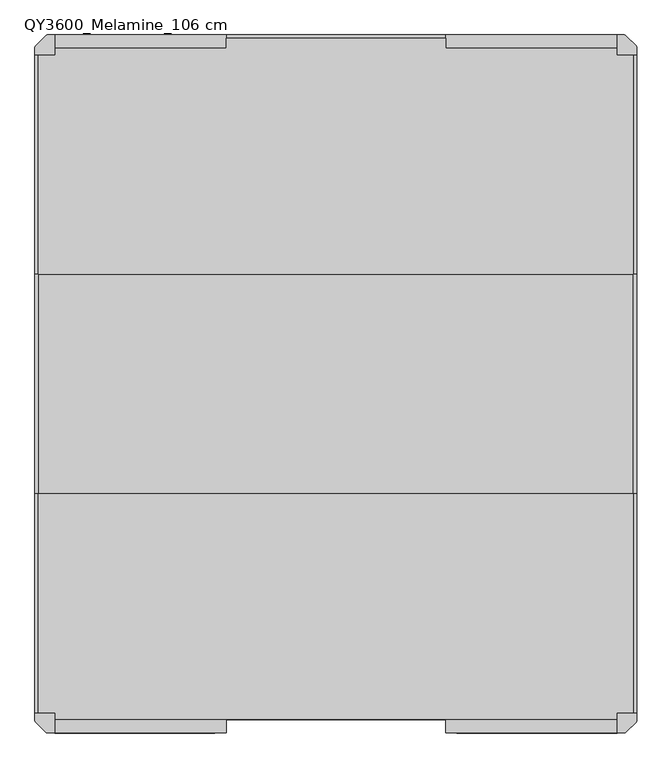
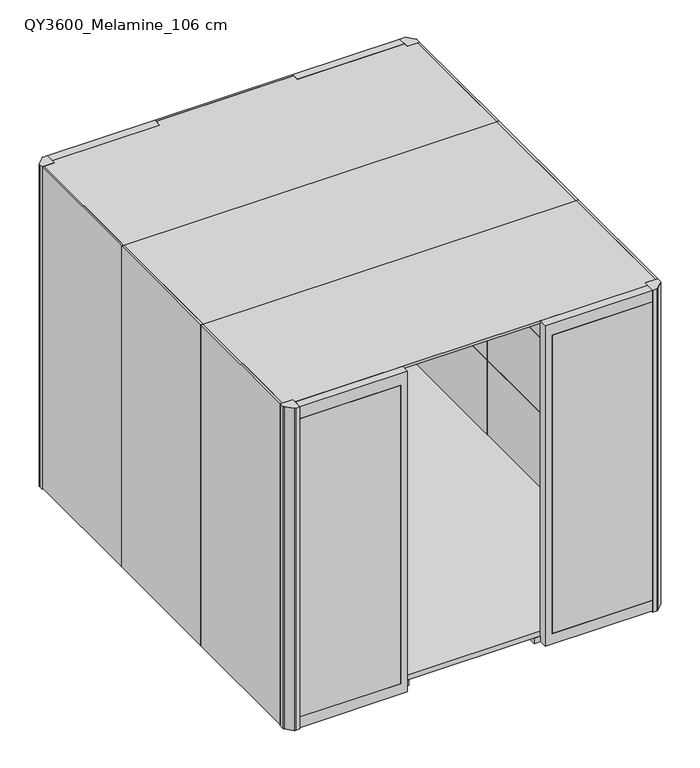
"""IFC4 building model written with IfcOpenShell, lengths in millimetres: furniture geometry, Qyos_600 : QY3600_Melamine_106 cm."""

from ifc_helpers import new_model, si_unit, point, frame, frame_2d, origin, origin_with_axes, place, context, project, spatial, polyline, circle_curve, trimmed, segment, composite_curve, outline, extrude, source, transform, mapped, element, save
from ifc_brep_helpers import plane_surface, cylinder_surface, advanced_brep


def qy3600_melamine_106_cm_6145cd7a(model_context):
    return source(origin(), model_context, "Body", "SolidModel", [
        advanced_brep(
        [(1048.8585356, 1272.0, 0.0), (1095.1414644, 1272.0, 0.0), (1072.0, 1272.0, 0.0), (1048.8585356, 1272.0, 7.0), (1095.1414644, 1272.0, 7.0), (1062.3615446, 1272.0, 7.0), (1081.6384554, 1272.0, 7.0), (1062.3615446, 1272.0, 17.0), (1081.6384554, 1272.0, 17.0), (1072.0, 1272.0, 17.0)],
        [
            (0, 1, circle_curve(frame((1072.0, 1272.0, 0.0), z_axis=(0.0, 0.0, -1.0), x_axis=(1.0, 0.0, 0.0)), 23.1414644)),
            (1, 2),
            (2, 0),
            (1, 0, circle_curve(frame((1072.0, 1272.0, 0.0), z_axis=(0.0, 0.0, -1.0), x_axis=(1.0, 0.0, 0.0)), 23.1414644)),
            (3, 4, circle_curve(frame((1072.0, 1272.0, 7.0), z_axis=(0.0, 0.0, -1.0), x_axis=(1.0, 0.0, 0.0)), 23.1414644)),
            (4, 1),
            (0, 3),
            (4, 3, circle_curve(frame((1072.0, 1272.0, 7.0), z_axis=(0.0, 0.0, -1.0), x_axis=(1.0, 0.0, 0.0)), 23.1414644)),
            (5, 6, circle_curve(frame((1072.0, 1272.0, 7.0), z_axis=(0.0, 0.0, -1.0), x_axis=(1.0, 0.0, 0.0)), 9.6384554)),
            (6, 4),
            (3, 5),
            (6, 5, circle_curve(frame((1072.0, 1272.0, 7.0), z_axis=(0.0, 0.0, -1.0), x_axis=(1.0, 0.0, 0.0)), 9.6384554)),
            (7, 8, circle_curve(frame((1072.0, 1272.0, 17.0), z_axis=(0.0, 0.0, -1.0), x_axis=(1.0, 0.0, 0.0)), 9.6384554)),
            (8, 6),
            (5, 7),
            (8, 7, circle_curve(frame((1072.0, 1272.0, 17.0), z_axis=(0.0, 0.0, -1.0), x_axis=(1.0, 0.0, 0.0)), 9.6384554)),
            (9, 8),
            (7, 9),
        ],
        [
            plane_surface(frame((1072.0, 1272.0, 0.0), z_axis=(0.0, 0.0, -1.0), x_axis=(1.0, 0.0, 0.0))),
            cylinder_surface(frame((1072.0, 1272.0, 1997.4144888), z_axis=(0.0, 0.0, 1.0), x_axis=(1.0, 0.0, 0.0)), 23.1414644),
            plane_surface(frame((1072.0, 1272.0, 7.0), z_axis=(0.0, 0.0, 1.0), x_axis=(1.0, 0.0, 0.0))),
            cylinder_surface(frame((1072.0, 1272.0, 1997.4144888), z_axis=(0.0, 0.0, 1.0), x_axis=(1.0, 0.0, 0.0)), 9.6384554),
            plane_surface(frame((1072.0, 1272.0, 17.0), z_axis=(0.0, 0.0, 1.0), x_axis=(1.0, 0.0, 0.0))),
        ],
        [
            (0, [[1, 2, 3]]),
            (0, [[4, -3, -2]]),
            (1, [[5, 6, -1, 7]]),
            (1, [[8, -7, -4, -6]]),
            (2, [[9, 10, -5, 11]]),
            (2, [[12, -11, -8, -10]]),
            (3, [[13, 14, -9, 15]]),
            (3, [[16, -15, -12, -14]]),
            (4, [[17, -13, 18]]),
            (4, [[-18, -16, -17]]),
        ],
    ),
        extrude(outline(composite_curve([segment(trimmed(circle_curve(frame_2d((1072.0, 1272.0)), 23.1414644), [point((1048.8585356, 1272.0))], [point((1095.1414644, 1272.0))], False, "CARTESIAN"), True, "CONTINUOUS"), segment(trimmed(circle_curve(frame_2d((1072.0, 1272.0)), 23.1414644), [point((1095.1414644, 1272.0))], [point((1048.8585356, 1272.0))], False, "CARTESIAN"), True, "CONTINUOUS")], self_intersect=False)), origin_with_axes(), (0.0, 0.0, 1.0), 7.0),
        extrude(outline(composite_curve([segment(polyline([(-1140.0, 1335.0), (-1220.0, 1335.0), (-1220.0, 1362.5536246)]), True, "CONTINUOUS"), segment(trimmed(circle_curve(frame_2d((-1208.0024364, 1362.3118252)), 12.0), [point((-1220.0, 1362.5536246))], [point((-1216.7960176, 1370.4771745))], False, "CARTESIAN"), True, "CONTINUOUS"), segment(trimmed(circle_curve(frame_2d((-638.4303831, 833.431197)), 789.2560985), [point((-1216.7960176, 1370.4771745))], [point((-1175.4763607, 1411.7968315))], False, "CARTESIAN"), True, "CONTINUOUS"), segment(trimmed(circle_curve(frame_2d((-1167.3110114, 1403.0032502)), 12.0), [point((-1175.4763607, 1411.7968315))], [point((-1167.5902872, 1415.0))], False, "CARTESIAN"), True, "CONTINUOUS"), segment(polyline([(-1167.5902872, 1415.0), (-1140.0, 1415.0), (-1140.0, 1335.0)]), True, "CONTINUOUS")], self_intersect=False)), origin_with_axes(), (0.0, 0.0, 1.0), 2202.1),
        extrude(outline(composite_curve([segment(polyline([(1140.0, 1335.0), (1140.0, 1415.0), (1167.5536246, 1415.0)]), True, "CONTINUOUS"), segment(trimmed(circle_curve(frame_2d((1167.3118252, 1403.0024364)), 12.0), [point((1167.5536246, 1415.0))], [point((1175.4771745, 1411.7960176))], False, "CARTESIAN"), True, "CONTINUOUS"), segment(trimmed(circle_curve(frame_2d((638.431197, 833.4303831)), 789.2560985), [point((1175.4771745, 1411.7960176))], [point((1216.7968315, 1370.4763607))], False, "CARTESIAN"), True, "CONTINUOUS"), segment(trimmed(circle_curve(frame_2d((1208.0032502, 1362.3110114)), 12.0), [point((1216.7968315, 1370.4763607))], [point((1220.0, 1362.5902872))], False, "CARTESIAN"), True, "CONTINUOUS"), segment(polyline([(1220.0, 1362.5902872), (1220.0, 1335.0), (1140.0, 1335.0)]), True, "CONTINUOUS")], self_intersect=False)), origin_with_axes(), (0.0, 0.0, 1.0), 2202.1),
        extrude(outline(composite_curve([segment(polyline([(1140.0, -1335.0), (1220.0, -1335.0), (1220.0, -1362.5536246)]), True, "CONTINUOUS"), segment(trimmed(circle_curve(frame_2d((1208.0024364, -1362.3118252)), 12.0), [point((1220.0, -1362.5536246))], [point((1216.7960176, -1370.4771745))], False, "CARTESIAN"), True, "CONTINUOUS"), segment(trimmed(circle_curve(frame_2d((638.4303831, -833.431197)), 789.2560985), [point((1216.7960176, -1370.4771745))], [point((1175.4763607, -1411.7968315))], False, "CARTESIAN"), True, "CONTINUOUS"), segment(trimmed(circle_curve(frame_2d((1167.3110114, -1403.0032502)), 12.0), [point((1175.4763607, -1411.7968315))], [point((1167.5902872, -1415.0))], False, "CARTESIAN"), True, "CONTINUOUS"), segment(polyline([(1167.5902872, -1415.0), (1140.0, -1415.0), (1140.0, -1335.0)]), True, "CONTINUOUS")], self_intersect=False)), origin_with_axes(), (0.0, 0.0, 1.0), 2202.1),
        extrude(outline(composite_curve([segment(polyline([(-1140.0, -1335.0), (-1140.0, -1415.0), (-1167.5536246, -1415.0)]), True, "CONTINUOUS"), segment(trimmed(circle_curve(frame_2d((-1167.3118252, -1403.0024364)), 12.0), [point((-1167.5536246, -1415.0))], [point((-1175.4771745, -1411.7960176))], False, "CARTESIAN"), True, "CONTINUOUS"), segment(trimmed(circle_curve(frame_2d((-638.431197, -833.4303831)), 789.2560985), [point((-1175.4771745, -1411.7960176))], [point((-1216.7968315, -1370.4763607))], False, "CARTESIAN"), True, "CONTINUOUS"), segment(trimmed(circle_curve(frame_2d((-1208.0032502, -1362.3110114)), 12.0), [point((-1216.7968315, -1370.4763607))], [point((-1220.0, -1362.5902872))], False, "CARTESIAN"), True, "CONTINUOUS"), segment(polyline([(-1220.0, -1362.5902872), (-1220.0, -1335.0), (-1140.0, -1335.0)]), True, "CONTINUOUS")], self_intersect=False)), origin_with_axes(), (0.0, 0.0, 1.0), 2202.1),
        extrude(outline(polyline([(-445.0, 1360.0), (-445.0, 1401.0), (445.0, 1401.0), (445.0, 1360.0), (1140.0, 1360.0), (1140.0, 1335.0), (1206.0, 1335.0), (1206.0, 445.0), (-1206.0, 445.0), (-1206.0, 1335.0), (-1140.0, 1335.0), (-1140.0, 1360.0), (-445.0, 1360.0)])), frame((0.0, 0.0, 2186.1), z_axis=(0.0, 0.0, 1.0), x_axis=(1.0, 0.0, 0.0)), (0.0, 0.0, 1.0), 16.0),
        extrude(outline(polyline([(1206.0, -445.0), (1206.0, -1335.0), (1140.0, -1335.0), (1140.0, -1359.9956819), (-1140.0, -1359.9956819), (-1140.0, -1335.0), (-1206.0, -1335.0), (-1206.0, -445.0), (1206.0, -445.0)])), frame((0.0, 0.0, 2186.1), z_axis=(0.0, 0.0, 1.0), x_axis=(1.0, 0.0, 0.0)), (0.0, 0.0, 1.0), 16.0),
        extrude(outline(polyline([(1165.0, -1335.0), (1146.0, -1335.0), (1146.0, -445.0), (1165.0, -445.0), (1165.0, -1335.0)])), frame((0.0, 0.0, 77.0), z_axis=(0.0, 0.0, 1.0), x_axis=(1.0, 0.0, 0.0)), (0.0, 0.0, 1.0), 516.9823403),
        extrude(outline(polyline([(-1165.0, -1335.0), (-1165.0, -445.0), (-1146.0, -445.0), (-1146.0, -1335.0), (-1165.0, -1335.0)])), frame((0.0, 0.0, 77.0), z_axis=(0.0, 0.0, 1.0), x_axis=(1.0, 0.0, 0.0)), (0.0, 0.0, 1.0), 516.9823403),
        extrude(outline(polyline([(1165.0, -1335.0), (1146.0, -1335.0), (1146.0, -445.0), (1165.0, -445.0), (1165.0, -1335.0)])), frame((0.0, 0.0, 593.9823403), z_axis=(0.0, 0.0, 1.0), x_axis=(1.0, 0.0, 0.0)), (0.0, 0.0, 1.0), 512.0292884),
        extrude(outline(polyline([(-1165.0, -1335.0), (-1165.0, -445.0), (-1146.0, -445.0), (-1146.0, -1335.0), (-1165.0, -1335.0)])), frame((0.0, 0.0, 593.9823403), z_axis=(0.0, 0.0, 1.0), x_axis=(1.0, 0.0, 0.0)), (0.0, 0.0, 1.0), 512.0292884),
        extrude(outline(polyline([(1165.0, -1335.0), (1146.0, -1335.0), (1146.0, -445.0), (1165.0, -445.0), (1165.0, -1335.0)])), frame((0.0, 0.0, 1106.0116287), z_axis=(0.0, 0.0, 1.0), x_axis=(1.0, 0.0, 0.0)), (0.0, 0.0, 1.0), 511.9707116),
        extrude(outline(polyline([(-1165.0, -1335.0), (-1165.0, -445.0), (-1146.0, -445.0), (-1146.0, -1335.0), (-1165.0, -1335.0)])), frame((0.0, 0.0, 1106.0116287), z_axis=(0.0, 0.0, 1.0), x_axis=(1.0, 0.0, 0.0)), (0.0, 0.0, 1.0), 511.9707116),
        extrude(outline(polyline([(1165.0, -1335.0), (1146.0, -1335.0), (1146.0, -445.0), (1165.0, -445.0), (1165.0, -1335.0)])), frame((0.0, 0.0, 1617.9823403), z_axis=(0.0, 0.0, 1.0), x_axis=(1.0, 0.0, 0.0)), (0.0, 0.0, 1.0), 504.1176597),
        extrude(outline(polyline([(-1165.0, -1335.0), (-1165.0, -445.0), (-1146.0, -445.0), (-1146.0, -1335.0), (-1165.0, -1335.0)])), frame((0.0, 0.0, 1617.9823403), z_axis=(0.0, 0.0, 1.0), x_axis=(1.0, 0.0, 0.0)), (0.0, 0.0, 1.0), 504.1176597),
        extrude(outline(polyline([(1165.0, -445.0), (1146.0, -445.0), (1146.0, 445.0), (1165.0, 445.0), (1165.0, -445.0)])), frame((0.0, 0.0, 1617.9823403), z_axis=(0.0, 0.0, 1.0), x_axis=(1.0, 0.0, 0.0)), (0.0, 0.0, 1.0), 504.1176597),
        extrude(outline(polyline([(-1165.0, -445.0), (-1165.0, 445.0), (-1146.0, 445.0), (-1146.0, -445.0), (-1165.0, -445.0)])), frame((0.0, 0.0, 1617.9823403), z_axis=(0.0, 0.0, 1.0), x_axis=(1.0, 0.0, 0.0)), (0.0, 0.0, 1.0), 504.1176597),
        extrude(outline(polyline([(1165.0, -445.0), (1146.0, -445.0), (1146.0, 445.0), (1165.0, 445.0), (1165.0, -445.0)])), frame((0.0, 0.0, 1106.0116287), z_axis=(0.0, 0.0, 1.0), x_axis=(1.0, 0.0, 0.0)), (0.0, 0.0, 1.0), 511.9707116),
        extrude(outline(polyline([(-1165.0, -445.0), (-1165.0, 445.0), (-1146.0, 445.0), (-1146.0, -445.0), (-1165.0, -445.0)])), frame((0.0, 0.0, 1106.0116287), z_axis=(0.0, 0.0, 1.0), x_axis=(1.0, 0.0, 0.0)), (0.0, 0.0, 1.0), 511.9707116),
        extrude(outline(polyline([(1165.0, -445.0), (1146.0, -445.0), (1146.0, 445.0), (1165.0, 445.0), (1165.0, -445.0)])), frame((0.0, 0.0, 593.9823403), z_axis=(0.0, 0.0, 1.0), x_axis=(1.0, 0.0, 0.0)), (0.0, 0.0, 1.0), 512.0292884),
        extrude(outline(polyline([(-1165.0, -445.0), (-1165.0, 445.0), (-1146.0, 445.0), (-1146.0, -445.0), (-1165.0, -445.0)])), frame((0.0, 0.0, 593.9823403), z_axis=(0.0, 0.0, 1.0), x_axis=(1.0, 0.0, 0.0)), (0.0, 0.0, 1.0), 512.0292884),
        extrude(outline(polyline([(1165.0, 445.0), (1146.0, 445.0), (1146.0, 1335.0), (1165.0, 1335.0), (1165.0, 445.0)])), frame((0.0, 0.0, 77.0), z_axis=(0.0, 0.0, 1.0), x_axis=(1.0, 0.0, 0.0)), (0.0, 0.0, 1.0), 516.9823403),
        extrude(outline(polyline([(-1165.0, 445.0), (-1165.0, 1335.0), (-1146.0, 1335.0), (-1146.0, 445.0), (-1165.0, 445.0)])), frame((0.0, 0.0, 77.0), z_axis=(0.0, 0.0, 1.0), x_axis=(1.0, 0.0, 0.0)), (0.0, 0.0, 1.0), 516.9823403),
        extrude(outline(polyline([(-445.0, 1360.0), (-445.0, 1379.0), (445.0557256, 1379.0), (445.0557256, 1360.0), (-445.0, 1360.0)])), frame((0.0, 0.0, 77.0), z_axis=(0.0, 0.0, 1.0), x_axis=(1.0, 0.0, 0.0)), (0.0, 0.0, 1.0), 516.9823403),
        extrude(outline(polyline([(-1220.0, -1335.0), (-1220.0, -445.0), (-1206.0, -445.0), (-1206.0, -1335.0), (-1220.0, -1335.0)])), frame((0.0, 0.0, 10.0), z_axis=(0.0, 0.0, 1.0), x_axis=(1.0, 0.0, 0.0)), (0.0, 0.0, 1.0), 2192.1),
        extrude(outline(polyline([(1220.0, -1335.0), (1206.0, -1335.0), (1206.0, -445.0), (1220.0, -445.0), (1220.0, -1335.0)])), frame((0.0, 0.0, 10.0), z_axis=(0.0, 0.0, 1.0), x_axis=(1.0, 0.0, 0.0)), (0.0, 0.0, 1.0), 2192.1),
        extrude(outline(polyline([(-1220.0, -445.0), (-1220.0, 445.0), (-1206.0, 445.0), (-1206.0, -445.0), (-1220.0, -445.0)])), frame((0.0, 0.0, 10.0), z_axis=(0.0, 0.0, 1.0), x_axis=(1.0, 0.0, 0.0)), (0.0, 0.0, 1.0), 2192.1),
        extrude(outline(polyline([(1220.0, -445.0), (1206.0, -445.0), (1206.0, 445.0), (1220.0, 445.0), (1220.0, -445.0)])), frame((0.0, 0.0, 10.0), z_axis=(0.0, 0.0, 1.0), x_axis=(1.0, 0.0, 0.0)), (0.0, 0.0, 1.0), 2192.1),
        extrude(outline(polyline([(-1140.0, 1415.0), (-490.0089845, 1415.0), (-490.0089845, 1410.0), (-1140.0, 1410.0), (-1140.0, 1415.0)])), frame((0.0, 0.0, 82.0), z_axis=(0.0, 0.0, 1.0), x_axis=(1.0, 0.0, 0.0)), (0.0, 0.0, 1.0), 2040.1),
        extrude(outline(polyline([(490.0089845, 1415.0), (1140.0, 1415.0), (1140.0, 1410.0), (490.0089845, 1410.0), (490.0089845, 1415.0)])), frame((0.0, 0.0, 82.0), z_axis=(0.0, 0.0, 1.0), x_axis=(1.0, 0.0, 0.0)), (0.0, 0.0, 1.0), 2040.1),
        extrude(outline(polyline([(2122.1, -490.0089845), (82.0, -490.0089845), (82.0, -1140.0), (10.0, -1140.0), (10.0, -445.0), (2202.1, -445.0), (2202.1, -1140.0), (2122.1, -1140.0), (2122.1, -490.0089845)])), frame((0.0, 1360.0, 0.0), z_axis=(0.0, 1.0, 0.0), x_axis=(0.0, 0.0, 1.0)), (0.0, 0.0, 1.0), 55.0),
        extrude(outline(polyline([(2122.1, 490.0089845), (2122.1, 1140.0), (2202.1, 1140.0), (2202.1, 445.0), (10.0, 445.0), (10.0, 1140.0), (82.0, 1140.0), (82.0, 490.0089845), (2122.1, 490.0089845)])), frame((0.0, 1360.0, 0.0), z_axis=(0.0, 1.0, 0.0), x_axis=(0.0, 0.0, 1.0)), (0.0, 0.0, 1.0), 55.0),
        extrude(outline(polyline([(1206.0, 445.0), (1206.0, -445.0), (-1206.0, -445.0), (-1206.0, 445.0), (1206.0, 445.0)])), frame((0.0, 0.0, 2186.1), z_axis=(0.0, 0.0, 1.0), x_axis=(1.0, 0.0, 0.0)), (0.0, 0.0, 1.0), 16.0),
        extrude(outline(polyline([(-490.0089845, -1415.0), (-1140.0, -1415.0), (-1140.0, -1410.0), (-490.0089845, -1410.0), (-490.0089845, -1415.0)])), frame((0.0, 0.0, 82.0), z_axis=(0.0, 0.0, 1.0), x_axis=(1.0, 0.0, 0.0)), (0.0, 0.0, 1.0), 2040.1),
        extrude(outline(polyline([(1140.0, -1415.0), (490.0089845, -1415.0), (490.0089845, -1410.0), (1140.0, -1410.0), (1140.0, -1415.0)])), frame((0.0, 0.0, 82.0), z_axis=(0.0, 0.0, 1.0), x_axis=(1.0, 0.0, 0.0)), (0.0, 0.0, 1.0), 2040.1),
        extrude(outline(polyline([(-1052.0, -1359.9956819), (-1092.0, -1359.9956819), (-1092.0, 1360.0), (-1052.0, 1360.0), (-1052.0, -1359.9956819)])), frame((0.0, 0.0, 10.0), z_axis=(0.0, 0.0, 1.0), x_axis=(1.0, 0.0, 0.0)), (0.0, 0.0, 1.0), 37.0),
        extrude(outline(polyline([(-405.0, -1359.9956819), (-445.0, -1359.9956819), (-445.0, 1360.0), (-405.0, 1360.0), (-405.0, -1359.9956819)])), frame((0.0, 0.0, 10.0), z_axis=(0.0, 0.0, 1.0), x_axis=(1.0, 0.0, 0.0)), (0.0, 0.0, 1.0), 37.0),
        extrude(outline(polyline([(1092.0, -1359.9956819), (1052.0, -1359.9956819), (1052.0, 1360.0), (1092.0, 1360.0), (1092.0, -1359.9956819)])), frame((0.0, 0.0, 10.0), z_axis=(0.0, 0.0, 1.0), x_axis=(1.0, 0.0, 0.0)), (0.0, 0.0, 1.0), 37.0),
        extrude(outline(polyline([(405.0, 1360.0), (450.2080274, 1360.0), (450.2080274, -1359.9956819), (405.0, -1359.9956819), (405.0, 1360.0)])), frame((0.0, 0.0, 10.0), z_axis=(0.0, 0.0, 1.0), x_axis=(1.0, 0.0, 0.0)), (0.0, 0.0, 1.0), 37.0),
        extrude(outline(polyline([(2122.1, -490.0089845), (82.0, -490.0089845), (82.0, -1140.0), (10.0, -1140.0), (10.0, -445.0), (2202.1, -445.0), (2202.1, -1140.0), (2122.1, -1140.0), (2122.1, -490.0089845)])), frame((0.0, -1415.0, 0.0), z_axis=(0.0, 1.0, 0.0), x_axis=(0.0, 0.0, 1.0)), (0.0, 0.0, 1.0), 55.0043181),
        extrude(outline(polyline([(2122.1, 490.0089845), (2122.1, 1140.0), (2202.1, 1140.0), (2202.1, 445.0), (10.0, 445.0), (10.0, 1140.0), (82.0, 1140.0), (82.0, 490.0089845), (2122.1, 490.0089845)])), frame((0.0, -1415.0, 0.0), z_axis=(0.0, 1.0, 0.0), x_axis=(0.0, 0.0, 1.0)), (0.0, 0.0, 1.0), 55.0043181),
        extrude(outline(polyline([(-1146.0, 1335.0), (-1140.0, 1335.0), (-1140.0, 1360.0), (1140.0, 1360.0), (1140.0, 1335.0), (1146.0, 1335.0), (1146.0, -1335.0), (1140.0, -1335.0), (1140.0, -1359.9956819), (-1140.0, -1359.9956819), (-1140.0, -1335.0), (-1146.0, -1335.0), (-1146.0, 1335.0)])), frame((0.0, 0.0, 47.0), z_axis=(0.0, 0.0, 1.0), x_axis=(1.0, 0.0, 0.0)), (0.0, 0.0, 1.0), 35.0),
        extrude(outline(polyline([(1165.0, 445.0), (1146.0, 445.0), (1146.0, 1335.0024364), (1165.0, 1335.0024364), (1165.0, 445.0)])), frame((0.0, 0.0, 1617.9823403), z_axis=(0.0, 0.0, 1.0), x_axis=(1.0, 0.0, 0.0)), (0.0, 0.0, 1.0), 504.1176597),
        extrude(outline(polyline([(-1165.0, 445.0), (-1165.0, 1335.0), (-1146.0, 1335.0), (-1146.0, 445.0), (-1165.0, 445.0)])), frame((0.0, 0.0, 1617.9823403), z_axis=(0.0, 0.0, 1.0), x_axis=(1.0, 0.0, 0.0)), (0.0, 0.0, 1.0), 504.1176597),
        extrude(outline(polyline([(-445.0, 1360.0), (-445.0, 1379.0), (445.0557256, 1379.0), (445.0557256, 1360.0), (-445.0, 1360.0)])), frame((0.0, 0.0, 1617.9823403), z_axis=(0.0, 0.0, 1.0), x_axis=(1.0, 0.0, 0.0)), (0.0, 0.0, 1.0), 504.1176597),
        extrude(outline(polyline([(1165.0, 445.0), (1146.0, 445.0), (1146.0, 1335.0), (1165.0, 1335.0), (1165.0, 445.0)])), frame((0.0, 0.0, 1106.0116287), z_axis=(0.0, 0.0, 1.0), x_axis=(1.0, 0.0, 0.0)), (0.0, 0.0, 1.0), 511.9707116),
        extrude(outline(polyline([(-1165.0, 445.0), (-1165.0, 1335.0), (-1146.0, 1335.0), (-1146.0, 445.0), (-1165.0, 445.0)])), frame((0.0, 0.0, 1106.0116287), z_axis=(0.0, 0.0, 1.0), x_axis=(1.0, 0.0, 0.0)), (0.0, 0.0, 1.0), 511.9707116),
        extrude(outline(polyline([(-445.0, 1360.0), (-445.0, 1379.0), (445.0557256, 1379.0), (445.0557256, 1360.0), (-445.0, 1360.0)])), frame((0.0, 0.0, 1106.0116287), z_axis=(0.0, 0.0, 1.0), x_axis=(1.0, 0.0, 0.0)), (0.0, 0.0, 1.0), 511.9707116),
        extrude(outline(polyline([(1165.0, 445.0), (1146.0, 445.0), (1146.0, 1335.0), (1165.0, 1335.0), (1165.0, 445.0)])), frame((0.0, 0.0, 593.9823403), z_axis=(0.0, 0.0, 1.0), x_axis=(1.0, 0.0, 0.0)), (0.0, 0.0, 1.0), 512.0292884),
        extrude(outline(polyline([(-1165.0, 445.0), (-1165.0, 1335.0), (-1146.0, 1335.0), (-1146.0, 445.0), (-1165.0, 445.0)])), frame((0.0, 0.0, 593.9823403), z_axis=(0.0, 0.0, 1.0), x_axis=(1.0, 0.0, 0.0)), (0.0, 0.0, 1.0), 512.0292884),
        extrude(outline(polyline([(-445.0, 1360.0), (-445.0, 1379.0), (445.0557256, 1379.0), (445.0557256, 1360.0), (-445.0, 1360.0)])), frame((0.0, 0.0, 593.9823403), z_axis=(0.0, 0.0, 1.0), x_axis=(1.0, 0.0, 0.0)), (0.0, 0.0, 1.0), 512.0292884),
        extrude(outline(polyline([(1165.0, -445.0), (1146.0, -445.0), (1146.0, 445.0), (1165.0, 445.0), (1165.0, -445.0)])), frame((0.0, 0.0, 77.0), z_axis=(0.0, 0.0, 1.0), x_axis=(1.0, 0.0, 0.0)), (0.0, 0.0, 1.0), 516.9823403),
        extrude(outline(polyline([(-1165.0, -445.0), (-1165.0, 445.0), (-1146.0, 445.0), (-1146.0, -445.0), (-1165.0, -445.0)])), frame((0.0, 0.0, 77.0), z_axis=(0.0, 0.0, 1.0), x_axis=(1.0, 0.0, 0.0)), (0.0, 0.0, 1.0), 516.9823403),
        extrude(outline(polyline([(-1220.0, 445.0), (-1220.0, 1335.0), (-1206.0, 1335.0), (-1206.0, 445.0), (-1220.0, 445.0)])), frame((0.0, 0.0, 10.0), z_axis=(0.0, 0.0, 1.0), x_axis=(1.0, 0.0, 0.0)), (0.0, 0.0, 1.0), 2192.1),
        extrude(outline(polyline([(1220.0, 445.0), (1206.0, 445.0), (1206.0, 1335.0), (1220.0, 1335.0), (1220.0, 445.0)])), frame((0.0, 0.0, 10.0), z_axis=(0.0, 0.0, 1.0), x_axis=(1.0, 0.0, 0.0)), (0.0, 0.0, 1.0), 2192.1),
        extrude(outline(polyline([(445.0557256, 1415.0), (445.0557256, 1401.0), (-445.0, 1401.0), (-445.0, 1415.0), (445.0557256, 1415.0)])), frame((0.0, 0.0, 10.0), z_axis=(0.0, 0.0, 1.0), x_axis=(1.0, 0.0, 0.0)), (0.0, 0.0, 1.0), 2192.1),
    ])


if __name__ == "__main__":
    model = new_model("IFC4")
    model_context = context("Model", 3, world=origin())
    ifc_project = project(units=[si_unit("LENGTHUNIT", "METRE", prefix="MILLI")], contexts=[model_context])
    site = spatial("IfcSite", under=ifc_project)
    building = spatial("IfcBuilding", under=site)
    placement = place(None, origin())
    qy3600_melamine_106_cm_shape = qy3600_melamine_106_cm_6145cd7a(model_context)
    element("IfcFurniture", 1, ObjectType="Qyos_600 : QY3600_Melamine_106 cm", at=placement, inside=building, context=model_context, shape_type="MappedRepresentation", body=[
        mapped(qy3600_melamine_106_cm_shape, transform((0.0, 0.0, 0.0), x_axis=(1.0, 0.0, 0.0), y_axis=(0.0, 1.0, 0.0), z_axis=(0.0, 0.0, 1.0))),
    ])
    save(model, "model.ifc")
